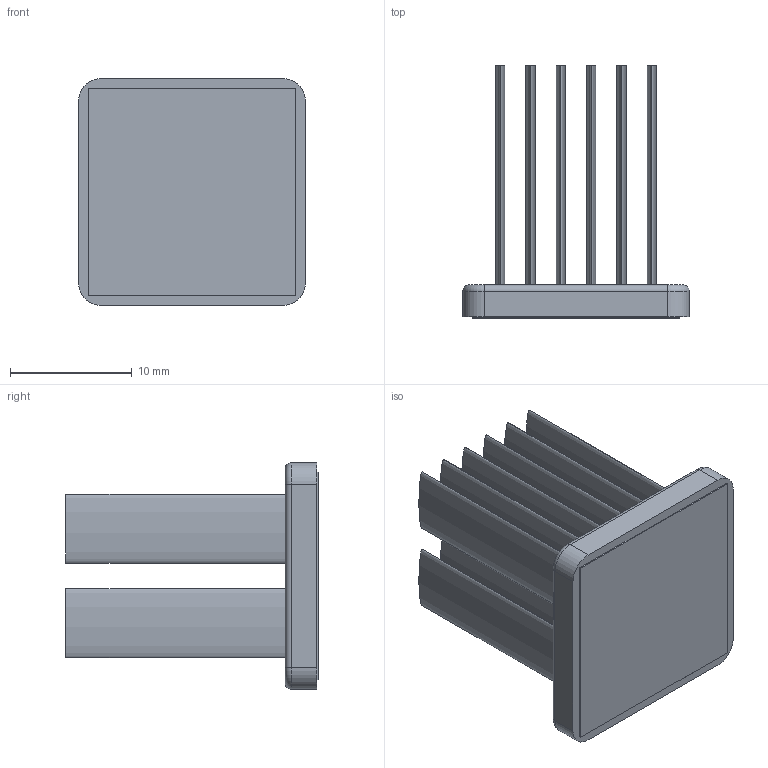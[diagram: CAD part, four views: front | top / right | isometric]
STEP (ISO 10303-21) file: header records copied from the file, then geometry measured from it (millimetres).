
FILE_DESCRIPTION (( 'STEP AP214' ), '1' );
FILE_NAME ('INM19001-21W-2.6.STEP', '2023-03-02T18:19:21', ( '' ), ( '' ), 'SwSTEP 2.0', 'SolidWorks 2020', '' );
FILE_SCHEMA (( 'AUTOMOTIVE_DESIGN' ));
Length unit declared in the file: millimetre
Products named in the file (1): INM19001-21W-2.6
Bounding box: 18.6 x 20.7 x 18.6 mm (x, y, z)
Volume: 1646.4 mm3; surface area: 3941.7 mm2
Topology: 2 solids, 2 shells, 60 faces, 124 edges, 80 vertices
Faces by surface type: bspline 24, plane 24, cylinder 8, torus 4
Entity records: 2339 total; most frequent: CARTESIAN_POINT 577, ORIENTED_EDGE 248, DIRECTION 170, EDGE_CURVE 124, VERTEX_POINT 80, EDGE_LOOP 72, UNCERTAINTY_MEASURE_WITH_UNIT 64, PRESENTATION_STYLE_ASSIGNMENT 63
